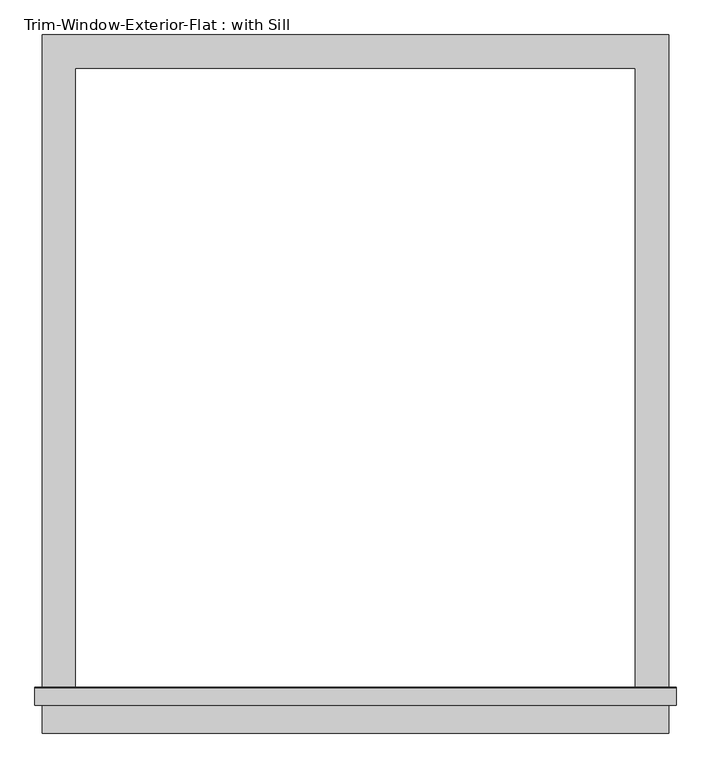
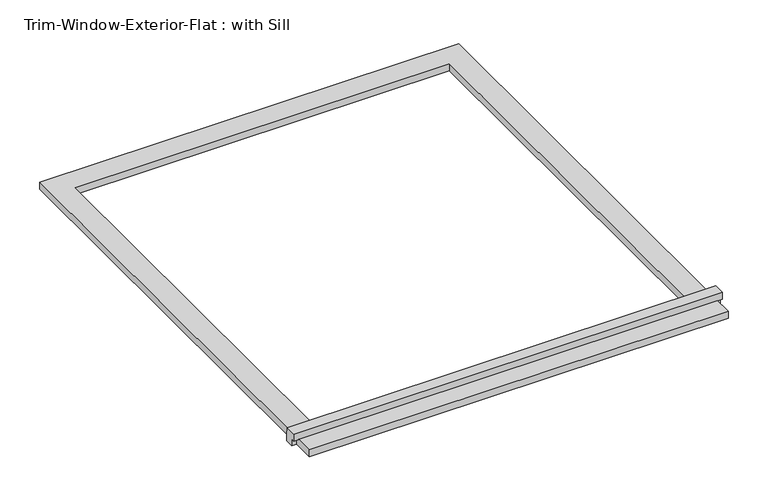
"""IFC4 building model written with IfcOpenShell, lengths in millimetres: proxy geometry, Trim-Window-Exterior-Flat : with Sill."""

import ifcopenshell
import ifcopenshell.guid

model = None  # the IFC model being written
_history = None  # IfcOwnerHistory: only IFC2X3 demands one
_inside = {}  # id of a spatial element -> (the spatial element, [elements in it])
_under = {}  # id of a project, library or spatial element -> (it, [spatial elements below it])
_declared = {}  # id of a project -> (the project, [libraries it declares])
_typed = {}  # id of a type object -> (the type object, [elements of that type])
_made_of = {}  # id of a material, layer set ... -> (it, [elements and type objects made of it])


def new_model(schema):
    """Start an empty IFC model of exactly this schema.

    Asked for "IFC4X3", IfcOpenShell would pick the latest addendum, in which some entities
    have other attributes; the version numbers below select the first issue.
    IFC2X3 requires an IfcOwnerHistory on every rooted entity: one is made here for all.
    """
    global model, _history
    if schema == "IFC4X3":
        model = ifcopenshell.file(schema_version=(4, 3, 0, 0))
    else:
        model = ifcopenshell.file(schema=schema)
    _inside.clear()
    _under.clear()
    _declared.clear()
    _typed.clear()
    _made_of.clear()
    _history = None
    if model.schema == "IFC2X3":
        org = make("IfcOrganization", Name="unknown")
        user = make(
            "IfcPersonAndOrganization",
            ThePerson=make("IfcPerson", FamilyName="unknown"),
            TheOrganization=org,
        )
        app = make(
            "IfcApplication",
            ApplicationDeveloper=org,
            Version="unknown",
            ApplicationFullName="unknown",
            ApplicationIdentifier="unknown",
        )
        _history = make(
            "IfcOwnerHistory",
            OwningUser=user,
            OwningApplication=app,
            ChangeAction="ADDED",
            CreationDate=0,
        )
    return model


def make(cls, **values):
    """One entity of the class cls with the attributes given. An attribute that is None is left unset."""
    return model.create_entity(
        cls, **{name: value for name, value in values.items() if value is not None}
    )


def rooted(cls, **values):
    """An entity with a GlobalId (a new one), such as an element, a storey or a relation."""
    return make(cls, GlobalId=ifcopenshell.guid.new(), OwnerHistory=_history, **values)


def si_unit(unit_type, name, prefix=None):
    """IfcSIUnit, for example si_unit("LENGTHUNIT", "METRE", prefix="MILLI")."""
    return make("IfcSIUnit", UnitType=unit_type, Prefix=prefix, Name=name)


def assignment(units):
    """IfcUnitAssignment: the units of a project."""
    return None if units is None else make("IfcUnitAssignment", Units=units)


def point(xyz):
    """IfcCartesianPoint."""
    return None if xyz is None else make("IfcCartesianPoint", Coordinates=xyz)


def direction(xyz):
    """IfcDirection."""
    return None if xyz is None else make("IfcDirection", DirectionRatios=xyz)


def frame(location, z_axis=None, x_axis=None):
    """IfcAxis2Placement3D, a coordinate frame: its origin and axes. An axis left out is left unset."""
    return make(
        "IfcAxis2Placement3D",
        Location=point(location),
        Axis=direction(z_axis),
        RefDirection=direction(x_axis),
    )


def origin():
    """The frame at (0, 0, 0) with its axes left unset."""
    return frame((0.0, 0.0, 0.0))


def origin_with_axes():
    """The frame at (0, 0, 0) with the z axis (0, 0, 1) and the x axis (1, 0, 0) written out."""
    return frame((0.0, 0.0, 0.0), z_axis=(0.0, 0.0, 1.0), x_axis=(1.0, 0.0, 0.0))


def place(relative_to, where):
    """IfcLocalPlacement: puts the frame where relative to a parent placement (None: the world)."""
    return make(
        "IfcLocalPlacement", PlacementRelTo=relative_to, RelativePlacement=where
    )


def context(
    kind, dimensions, precision=None, world=None, true_north=None, identifier=None
):
    """IfcGeometricRepresentationContext, for example the 3D "Model" context."""
    return make(
        "IfcGeometricRepresentationContext",
        ContextIdentifier=identifier,
        ContextType=kind,
        CoordinateSpaceDimension=dimensions,
        Precision=precision,
        WorldCoordinateSystem=world,
        TrueNorth=true_north,
    )


def project(units=None, contexts=None):
    """IfcProject with its units and contexts."""
    return rooted(
        "IfcProject",
        Name="project",
        RepresentationContexts=contexts,
        UnitsInContext=assignment(units),
    )


def spatial(cls, under=None, at=None, **own):
    """A site, building, storey or space (cls), placed at a placement, below another one or the project."""
    s = rooted(cls, ObjectPlacement=at, **own)
    if under is not None:
        _under.setdefault(under.id(), (under, []))[1].append(s)
    return s


def polyline(points):
    """IfcPolyline through the points."""
    return make("IfcPolyline", Points=[point(p) for p in points])


def outline(outer, holes=None, kind="AREA"):
    """IfcArbitraryClosedProfileDef: a profile drawn as a closed curve; with holes, ...WithVoids."""
    if holes is None:
        return make("IfcArbitraryClosedProfileDef", ProfileType=kind, OuterCurve=outer)
    return make(
        "IfcArbitraryProfileDefWithVoids",
        ProfileType=kind,
        OuterCurve=outer,
        InnerCurves=holes,
    )


def extrude(swept, where, along, depth):
    """IfcExtrudedAreaSolid: the profile swept, set in the frame where, extruded along a direction by depth."""
    return make(
        "IfcExtrudedAreaSolid",
        SweptArea=swept,
        Position=where,
        ExtrudedDirection=direction(along),
        Depth=depth,
    )


def shape(context_of_items, identifier, shape_type, items):
    """IfcShapeRepresentation: the items that make up one representation, for example the "Body"."""
    return make(
        "IfcShapeRepresentation",
        ContextOfItems=context_of_items,
        RepresentationIdentifier=identifier,
        RepresentationType=shape_type,
        Items=items,
    )


def source(mapping_origin, context_of_items, identifier, shape_type, items):
    """IfcRepresentationMap: a shape defined once, which mapped items show again and again."""
    return make(
        "IfcRepresentationMap",
        MappingOrigin=mapping_origin,
        MappedRepresentation=shape(context_of_items, identifier, shape_type, items),
    )


def transform(
    local_origin,
    x_axis=None,
    y_axis=None,
    z_axis=None,
    scale=None,
    scale2=None,
    scale3=None,
    uniform=True,
):
    """IfcCartesianTransformationOperator3D, or its non-uniform kind. x_axis, y_axis, z_axis: its Axis1, 2, 3."""
    if uniform:
        return make(
            "IfcCartesianTransformationOperator3D",
            Axis1=direction(x_axis),
            Axis2=direction(y_axis),
            LocalOrigin=point(local_origin),
            Scale=scale,
            Axis3=direction(z_axis),
        )
    return make(
        "IfcCartesianTransformationOperator3DnonUniform",
        Axis1=direction(x_axis),
        Axis2=direction(y_axis),
        LocalOrigin=point(local_origin),
        Scale=scale,
        Axis3=direction(z_axis),
        Scale2=scale2,
        Scale3=scale3,
    )


def mapped(mapping_source, mapping_target):
    """IfcMappedItem: shows the shape of a source again, moved by a transform."""
    return make(
        "IfcMappedItem", MappingSource=mapping_source, MappingTarget=mapping_target
    )


def made_of(thing, what):
    """Note that an element or type object is made of a material, layer set ...; save() writes the relation."""
    if what is not None:
        _made_of.setdefault(what.id(), (what, []))[1].append(thing)
    return thing


def element(
    cls,
    number,
    at=None,
    inside=None,
    cuts=None,
    type_object=None,
    material=None,
    context=None,
    identifier="Body",
    shape_type=None,
    held_by="IfcProductDefinitionShape",
    body=None,
    shapes=None,
    **own,
):
    """One element of the class cls, such as IfcWall. Its Tag is "e" and its number.

    at: its placement. inside: the storey or other place that contains it. cuts: it is an
    opening in that element (IfcRelVoidsElement). A single representation is given by context,
    identifier, shape_type and body (its items); several are given by shapes. held_by: the class
    of the entity that holds the representations. save() writes the other relations.
    """
    e = rooted(cls, Tag="e%d" % number, ObjectPlacement=at, **own)
    if body is not None:
        shapes = [shape(context, identifier, shape_type, body)]
    if shapes is not None:
        e.Representation = make(held_by, Representations=shapes)
    if inside is not None:
        _inside.setdefault(inside.id(), (inside, []))[1].append(e)
    if cuts is not None:
        rooted(
            "IfcRelVoidsElement", RelatingBuildingElement=cuts, RelatedOpeningElement=e
        )
    if type_object is not None:
        _typed.setdefault(type_object.id(), (type_object, []))[1].append(e)
    return made_of(e, material)


def aggregate(whole, parts):
    """IfcRelAggregates: a whole, such as a stair, and the parts it consists of."""
    return rooted("IfcRelAggregates", RelatingObject=whole, RelatedObjects=parts)


def save(model, path):
    """Write the relations noted so far, then the file.

    IfcRelAggregates (storeys below a building ...), IfcRelContainedInSpatialStructure (elements
    in a storey), IfcRelDefinesByType, IfcRelAssociatesMaterial and IfcRelDeclares: one each for
    every whole, place, type object, material and project.
    """
    for whole, parts in _under.values():
        aggregate(whole, parts)
    for where, things in _inside.values():
        rooted(
            "IfcRelContainedInSpatialStructure",
            RelatedElements=things,
            RelatingStructure=where,
        )
    for kind, things in _typed.values():
        rooted("IfcRelDefinesByType", RelatedObjects=things, RelatingType=kind)
    for what, things in _made_of.values():
        rooted("IfcRelAssociatesMaterial", RelatedObjects=things, RelatingMaterial=what)
    for by, libraries in _declared.values():
        rooted("IfcRelDeclares", RelatingContext=by, RelatedDefinitions=libraries)
    model.write(path)


def trim_window_exterior_flat_with_sill_72c6e1b0(model_context):
    return source(origin(), model_context, "Body", "SweptSolid", [
        extrude(outline(polyline([(539.75, -1088.9823709), (539.75, -1146.1323709), (-539.75, -1146.1323709), (-539.75, -1088.9823709), (539.75, -1088.9823709)])), origin_with_axes(), (0.0, 0.0, 1.0), 19.05),
        extrude(outline(polyline([(-1098.55, 38.1), (-1069.2580645, 38.1), (-1066.8, 19.05), (-1066.8, 0.0), (-1088.9823709, 0.0), (-1088.9823709, 19.05), (-1098.55, 19.05), (-1098.55, 38.1)])), frame((-552.45, 0.0, 0.0), z_axis=(1.0, 0.0, 0.0), x_axis=(0.0, 1.0, 0.0)), (0.0, 0.0, 1.0), 1104.9),
        extrude(outline(polyline([(-539.75, 57.15), (539.75, 57.15), (539.75, -1066.8), (482.6, -1066.8), (482.6, 0.0), (-482.6, 0.0), (-482.6, -1066.8), (-539.75, -1066.8), (-539.75, 57.15)])), origin_with_axes(), (0.0, 0.0, 1.0), 19.05),
    ])


if __name__ == "__main__":
    model = new_model("IFC4")
    model_context = context("Model", 3, world=origin())
    ifc_project = project(units=[si_unit("LENGTHUNIT", "METRE", prefix="MILLI")], contexts=[model_context])
    site = spatial("IfcSite", under=ifc_project)
    building = spatial("IfcBuilding", under=site)
    placement = place(None, origin())
    trim_window_exterior_flat_with_sill_shape = trim_window_exterior_flat_with_sill_72c6e1b0(model_context)
    element("IfcBuildingElementProxy", 1, Name="Trim-Window-Exterior-Flat : with Sill", ObjectType="Trim-Window-Exterior-Flat : with Sill", at=placement, inside=building, context=model_context, shape_type="MappedRepresentation", body=[
        mapped(trim_window_exterior_flat_with_sill_shape, transform((0.0, 0.0, 0.0), x_axis=(1.0, 0.0, 0.0), y_axis=(0.0, 1.0, 0.0), z_axis=(0.0, 0.0, 1.0))),
    ])
    save(model, "model.ifc")
